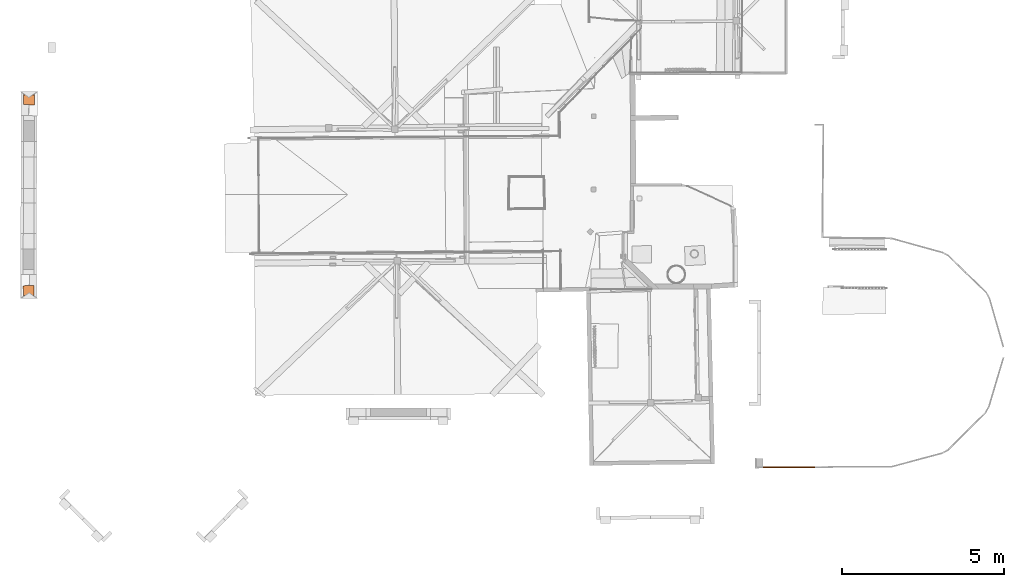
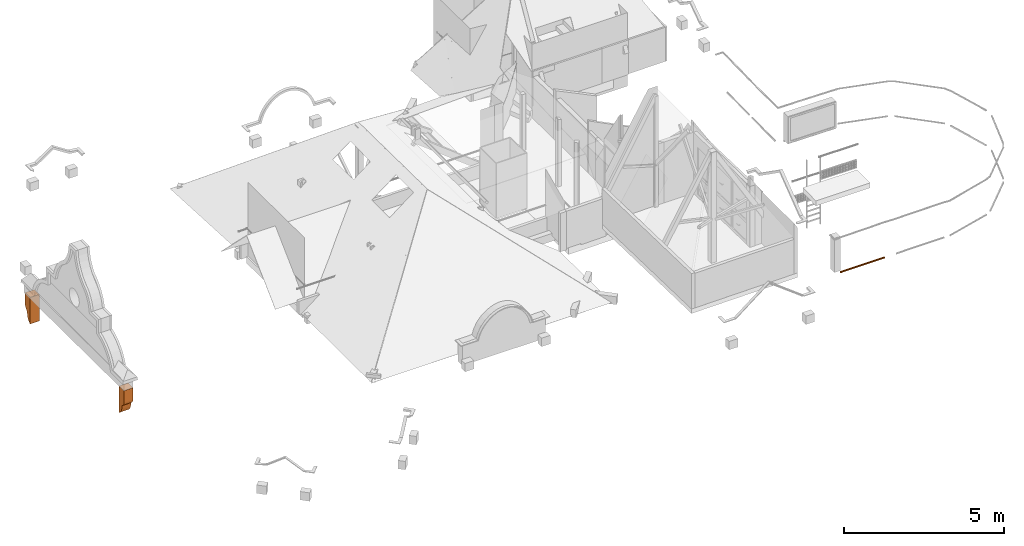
# One storey, part 30 of 39: 3 proxies.
"""IFC2X3 building model written with IfcOpenShell, lengths in centimetres."""

from ifc_helpers import new_model, entity, si_unit, converted_unit, point, direction, frame, frame_2d, origin, origin_with_axes, place, context, subcontext, project, spatial, polyline, circle_curve, trimmed, segment, composite_curve, outline, extrude, source, transform, mapped, material, type_object, element, save


model = new_model("IFC2X3")

# Units and contexts
model_context = context("Model", 3, precision=0.0001, world=origin(), true_north=direction((0.225632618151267, 0.974212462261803, 0.0)))
body_context = subcontext(model_context, "Body", "Model", "MODEL_VIEW")
ifc_project = project(units=[si_unit("LENGTHUNIT", "METRE", prefix="CENTI"), si_unit("AREAUNIT", "SQUARE_METRE", prefix="CENTI"), si_unit("VOLUMEUNIT", "CUBIC_METRE", prefix="CENTI"), converted_unit("PLANEANGLEUNIT", "DEGREE", entity("IfcRatioMeasure", 0.0174532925), si_unit("PLANEANGLEUNIT", "RADIAN"), dimensions=[0, 0, 0, 0, 0, 0, 0])], contexts=[model_context])

# Site, building, storey
site_placement = place(None, origin_with_axes())
site = spatial("IfcSite", under=ifc_project, at=site_placement, Name="Default Site", CompositionType="ELEMENT")
building_placement = place(site_placement, origin_with_axes())
building = spatial("IfcBuilding", under=site, at=building_placement, Name="Default Building", CompositionType="ELEMENT")
storey_placement = place(building_placement, frame((0.0, 0.0, 1088.91037418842), z_axis=(0.0, 0.0, 1.0), x_axis=(1.0, 0.0, 0.0)))
storey = spatial("IfcBuildingStorey", under=building, at=storey_placement, Name="Mezzanine", CompositionType="ELEMENT", Elevation=1088.91037418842)

# Proxies
ifc_material = material(Name="Aluminium mat")
building_element_proxy_type_1 = type_object("IfcBuildingElementProxyType", Name="Retombé Corniche_1", PredefinedType="NOTDEFINED", material=ifc_material)
shared_shape_1 = source(origin_with_axes(), body_context, "Body", "SweptSolid", [
    extrude(outline(composite_curve([segment(trimmed(circle_curve(frame_2d((-31.6021687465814, -29.2538250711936), x_axis=(1.0, 0.0)), 35.9153967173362), [point((-13.4347657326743, -60.2354517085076))], [point((3.72038445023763, -35.7525139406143))], True, "CARTESIAN"), True, "CONTINUOUS"), segment(polyline([(3.72038445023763, -35.7525139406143), (5.55038445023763, -22.8325139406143)]), True, "CONTINUOUS"), segment(trimmed(circle_curve(frame_2d((-48.1261445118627, 42.1851452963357), x_axis=(1.0, 0.0)), 84.311717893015), [point((5.55038445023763, -22.8325139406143))], [point((10.9578079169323, -17.9609463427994))], True, "CARTESIAN"), True, "CONTINUOUS"), segment(trimmed(circle_curve(frame_2d((-2.76873173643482, -2.98003901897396), x_axis=(1.0, 0.0)), 20.3185992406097), [point((10.9578079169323, -17.9609463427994))], [point((17.5496962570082, -3.06345949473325))], True, "CARTESIAN"), True, "CONTINUOUS"), segment(polyline([(17.5496962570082, -3.06345949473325), (17.2240482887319, 41.0364367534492), (-13.4347657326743, 41.0364367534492), (-13.4347657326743, -60.2354517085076)]), True, "CONTINUOUS")], self_intersect=False)), origin_with_axes(), (0.0, 0.0, 1.0), 100.0),
])
proxy_1_placement = place(storey_placement, frame((-1327.28, 214.219999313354, 28.8461064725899), z_axis=(0.999994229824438, -0.00339710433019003, 0.0), x_axis=(0.00339710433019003, 0.999994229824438, 0.0)))
element("IfcBuildingElementProxy", 1, at=proxy_1_placement, inside=storey, type_object=building_element_proxy_type_1, material=ifc_material, Name="Extrusion (solide) 975132", context=body_context, shape_type="MappedRepresentation", body=[
    mapped(shared_shape_1, transform((13.4347657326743, -41.0364367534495, 1.77635683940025e-13), x_axis=(1.0, 0.0, 0.0), y_axis=(0.0, 1.0, 0.0), z_axis=(0.0, 0.0, -1.0), scale=1.0, scale2=1.0, scale3=0.329999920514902, uniform=False)),
])
proxy_2_placement = place(storey_placement, frame((-1361.89584732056, -342.840051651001, 30.0616411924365), z_axis=(-0.999660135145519, -0.0260694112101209, 7.70371977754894e-34), x_axis=(0.0260694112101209, -0.999660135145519, -2.44929359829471e-16)))
element("IfcBuildingElementProxy", 2, at=proxy_2_placement, inside=storey, type_object=building_element_proxy_type_1, material=ifc_material, Name="Extrusion (solide) 975131", context=body_context, shape_type="MappedRepresentation", body=[
    mapped(shared_shape_1, transform((13.4347657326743, -41.0364367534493, -1.77635683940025e-13), x_axis=(1.0, 0.0, -3.77373430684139e-49), y_axis=(0.0, 1.0, -3.42113882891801e-49), z_axis=(-5.29886632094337e-18, -1.54074395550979e-33, -1.0), scale=1.0, scale2=1.0, scale3=0.327376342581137, uniform=False)),
])
building_element_proxy_type_2 = type_object("IfcBuildingElementProxyType", Name="Base arrondi", PredefinedType="NOTDEFINED", material=ifc_material)
shared_shape_2 = source(origin_with_axes(), body_context, "Body", "SweptSolid", [
    extrude(outline(composite_curve([segment(trimmed(circle_curve(frame_2d((-0.104143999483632, 3.46944695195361e-16), x_axis=(1.0, 0.0)), 1.99994458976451), [point((-0.0164066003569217, -1.99801914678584))], [point((-0.0164066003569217, 1.99801914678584))], True, "CARTESIAN"), True, "CONTINUOUS"), segment(polyline([(-0.0164066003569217, 1.99801914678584), (-1.53215921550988, 1.99801914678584), (-1.53215921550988, -1.99801914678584), (-0.0164066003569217, -1.99801914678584)]), True, "CONTINUOUS")], self_intersect=False)), origin_with_axes(), (0.0, 0.0, 1.0), 100.0),
])
proxy_3_placement = place(storey_placement, frame((1073.6820850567, -899.266942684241, 2.99998805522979), z_axis=(0.999986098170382, 0.00527289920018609, 0.0), x_axis=(0.00527289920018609, -0.999986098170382, 1.22464679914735e-16)))
element("IfcBuildingElementProxy", 3, at=proxy_3_placement, inside=storey, type_object=building_element_proxy_type_2, material=ifc_material, Name="Extrusion (solide) 1547955", context=body_context, shape_type="MappedRepresentation", body=[
    mapped(shared_shape_2, transform((1.53215921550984, -1.9980191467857, -1.77635683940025e-13), x_axis=(1.0, 0.0, -1.17929197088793e-50), y_axis=(0.0, 1.0, -9.62964972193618e-35), z_axis=(1.17929197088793e-50, 2.51135056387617e-35, -1.0), scale=1.0, scale2=1.0, scale3=1.58630252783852, uniform=False)),
])

save(model, "model.ifc")
